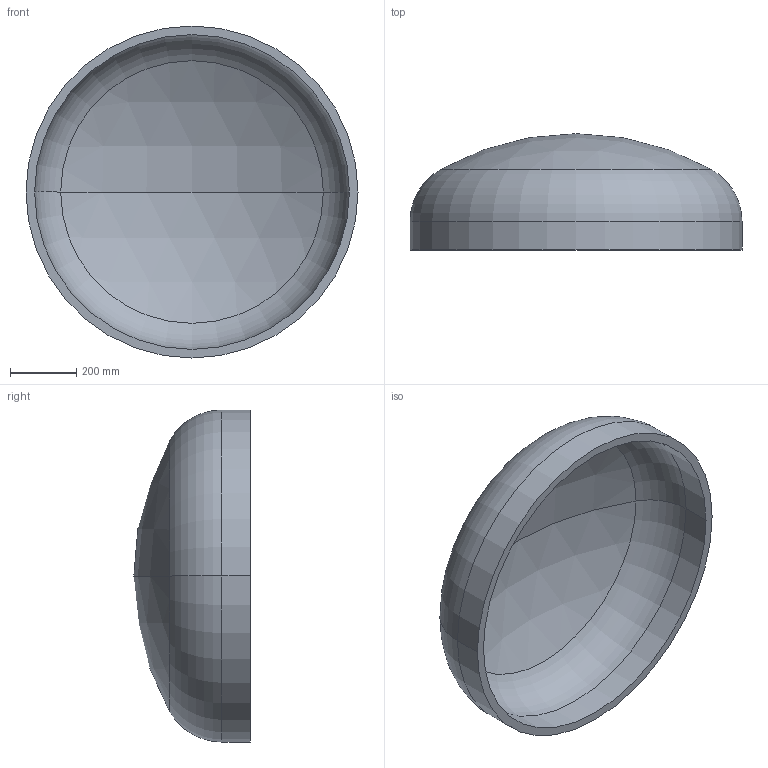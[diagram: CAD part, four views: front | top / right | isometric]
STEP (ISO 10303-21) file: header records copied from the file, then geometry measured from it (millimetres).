
FILE_DESCRIPTION (( 'STEP AP203' ), '1' );
FILE_NAME ('DIN 28013 Korbbogenform_-_Boden DIN 28013 - 1000 x 85 - I - s=26.step', '2016-07-01T08:45:44', ( '' ), ( '' ), 'SwSTEP 2.0', 'SolidWorks 2013', '' );
FILE_SCHEMA (( 'CONFIG_CONTROL_DESIGN' ));
Length unit declared in the file: millimetre
Products named in the file (1): DIN 28013 Korbbogenform_-_Boden DIN 28013 - 1000 x 85 - I - s=26
Bounding box: 1000 x 350.41 x 1000 mm (x, y, z)
Volume: 34132304.5 mm3; surface area: 2706534.6 mm2
Topology: 1 solids, 1 shells, 13 faces, 24 edges, 14 vertices
Faces by surface type: torus 4, cylinder 4, sphere 4, plane 1
Entity records: 407 total; most frequent: DIRECTION 72, CARTESIAN_POINT 52, ORIENTED_EDGE 48, AXIS2_PLACEMENT_3D 34, EDGE_CURVE 24, CIRCLE 20, EDGE_LOOP 14, VERTEX_POINT 14
